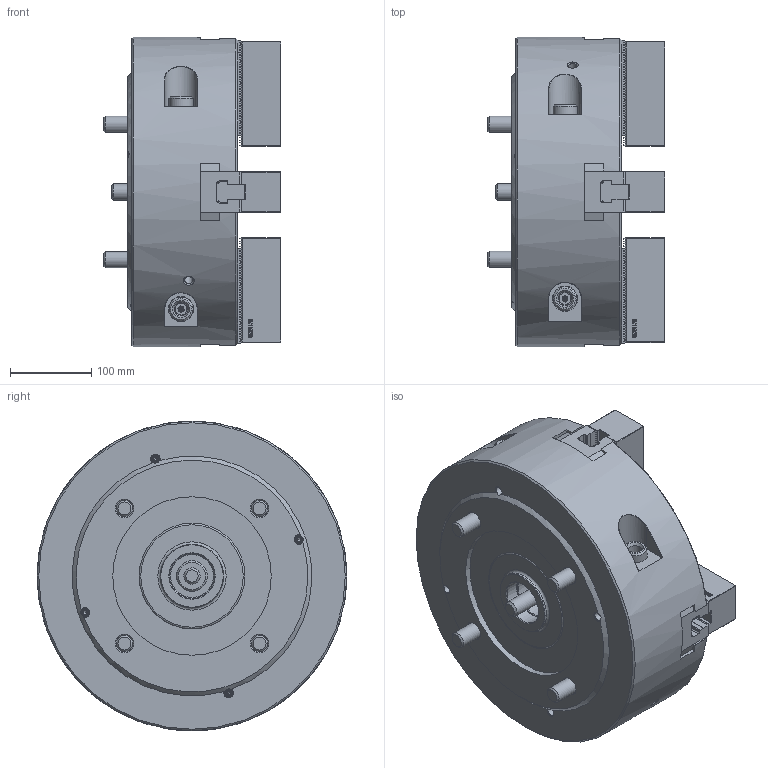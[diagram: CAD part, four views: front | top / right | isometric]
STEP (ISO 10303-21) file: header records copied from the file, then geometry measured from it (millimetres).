
FILE_DESCRIPTION (( 'STEP AP214' ), '1' );
FILE_NAME ('DT1_HW-15_OUTSIDE_VIEW_OC.STEP', '2024-05-10T00:43:22', ( '' ), ( '' ), 'SwSTEP 2.0', 'SolidWorks 2022', '' );
FILE_SCHEMA (( 'AUTOMOTIVE_DESIGN' ));
Length unit declared in the file: millimetre
Products named in the file (10): DT1_HW-15_M5x10^DT1_HW-15_ﾃﾞﾌｫﾙﾄ; DT1_HW-15_TNUT^DT1_HW-15_ﾃﾞﾌｫﾙﾄ; DT1_HW-15_SOFTJAW^DT1_HW-15_ﾃﾞﾌｫﾙﾄ; DT1_HW-15_BASE^DT1_HW-15_ﾃﾞﾌｫﾙﾄ; DT1_HW-15_COVER^DT1_HW-15_ﾃﾞﾌｫﾙﾄ; DT1_HW-15_M14x40^DT1_HW-15_ﾃﾞﾌｫﾙﾄ; DT1_HW-15_M20x140^DT1_HW-15_ﾃﾞﾌｫﾙﾄ; DT1_HW-15_DRAWSCREW^DT1_HW-15_ﾃﾞﾌｫﾙﾄ; DT1_HW-15_DN^DT1_HW-15_ﾃﾞﾌｫﾙﾄ; DT1_HW-15_OUTSIDE_VIEW_OC
Assembly tree (28 placements, depth 2):
  DT1_HW-15_OUTSIDE_VIEW_OC
    DT1_HW-15_SOFTJAW^DT1_HW-15_ﾃﾞﾌｫﾙﾄ  x4
    DT1_HW-15_TNUT^DT1_HW-15_ﾃﾞﾌｫﾙﾄ  x4
    DT1_HW-15_COVER^DT1_HW-15_ﾃﾞﾌｫﾙﾄ
    DT1_HW-15_DRAWSCREW^DT1_HW-15_ﾃﾞﾌｫﾙﾄ
    DT1_HW-15_DN^DT1_HW-15_ﾃﾞﾌｫﾙﾄ
    DT1_HW-15_BASE^DT1_HW-15_ﾃﾞﾌｫﾙﾄ
    DT1_HW-15_M20x140^DT1_HW-15_ﾃﾞﾌｫﾙﾄ  x4
    DT1_HW-15_M14x40^DT1_HW-15_ﾃﾞﾌｫﾙﾄ  x8
    DT1_HW-15_M5x10^DT1_HW-15_ﾃﾞﾌｫﾙﾄ  x4
Bounding box: 218 x 381 x 381 mm (x, y, z)
Volume: 15697705.3 mm3; surface area: 905310.8 mm2
Topology: 28 solids, 28 shells, 5378 faces, 15302 edges, 10126 vertices
Faces by surface type: plane 3808, cylinder 890, bspline 379, cone 266, torus 31, sphere 4
Full cylindrical faces by diameter (mm): 2 x4, 4.2 x4, 5 x4, 5.5 x4, 6.8 x5, 8.72 x4, 9.5 x4, 10.2 x6, 12 x8, 13.27 x4, 14 x12, 15 x8, 17 x5, 17.5 x1, 20 x6, 21 x4, 21.33 x8, 22 x8, 27 x1, 29.6 x4, 30.33 x4, 31 x5, 32 x4, 38 x1, 52.835 x1, 55 x1, 56 x2, 78 x1, 130 x1, 195 x1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
Entity records: 125334 total; most frequent: CARTESIAN_POINT 34542, ORIENTED_EDGE 19990, DIRECTION 16617, EDGE_CURVE 9995, LINE 7805, VECTOR 7805, VERTEX_POINT 6722, AXIS2_PLACEMENT_3D 4406
